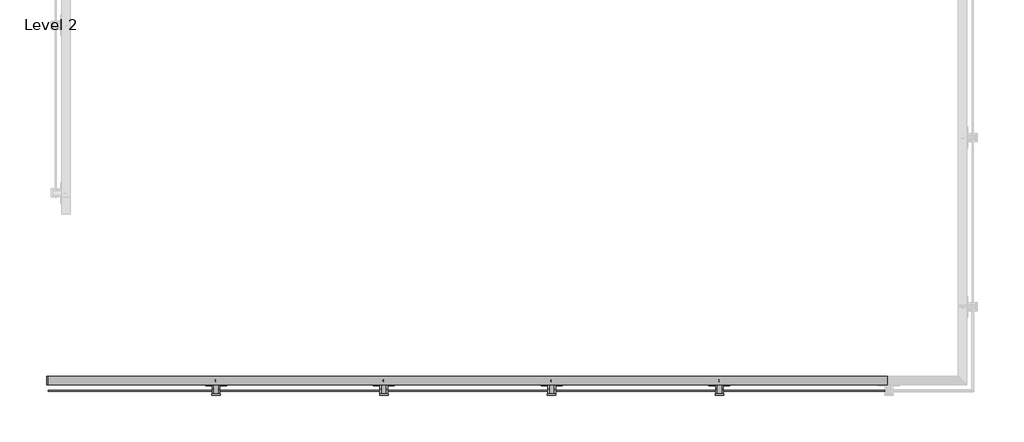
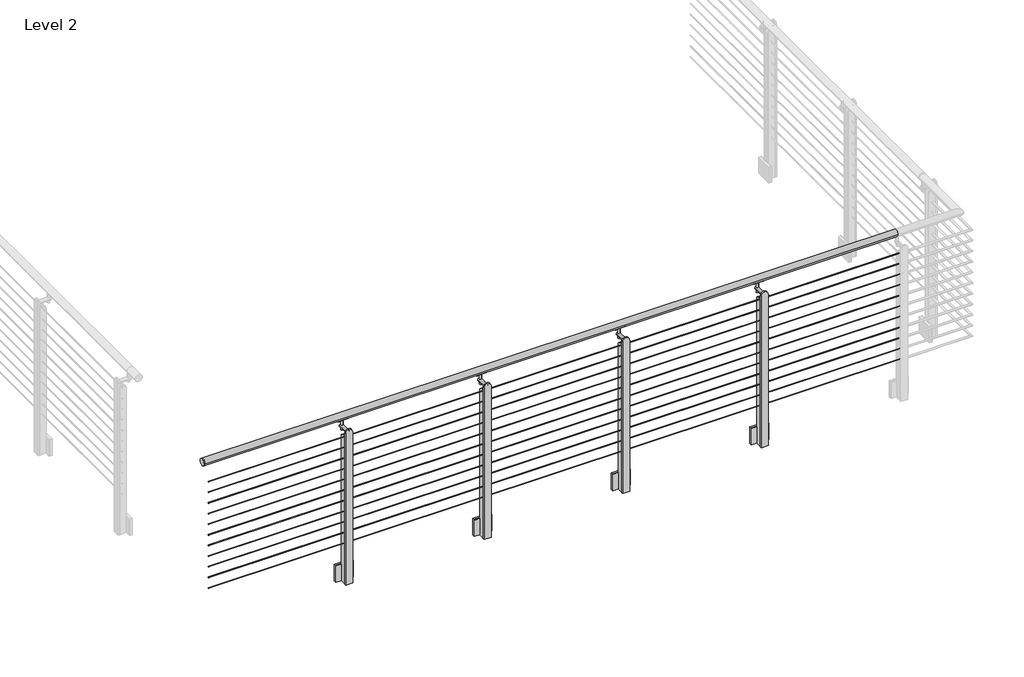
# One storey, part 2 of 12: 1 railing.
"""IFC4 building model written with IfcOpenShell, lengths in millimetres."""

from ifc_helpers import new_model, si_unit, point, frame, frame_2d, origin, place, context, project, spatial, polyline, circle_curve, trimmed, segment, composite_curve, outline, extrude, element, save
from ifc_brep_helpers import plane_surface, cylinder_surface, advanced_brep

model = new_model("IFC4")

# Units and contexts
model_context = context("Model", 3, world=origin())
ifc_project = project(units=[si_unit("LENGTHUNIT", "METRE", prefix="MILLI")], contexts=[model_context])

# Site, building, storey
site = spatial("IfcSite", under=ifc_project)
building = spatial("IfcBuilding", under=site)
storey = spatial("IfcBuildingStorey", under=building, Name="Level 2", Elevation=3048.0)

# Railing
placement = place(None, origin())
element("IfcRailing", 1, ObjectType="VIVA-TEE-Cable-Fascia Mount-Straight", at=placement, inside=storey, context=model_context, shape_type="SolidModel", body=[
    advanced_brep(
    [(-4181.705113, -52259.6826165, 4102.1), (-4181.705113, -52208.8826165, 4102.1), (-9261.705113, -52208.8826165, 4102.1), (-9261.705113, -52259.6826165, 4102.1), (-9271.4343064, -52259.6826165, 4102.1), (-9271.4343064, -52208.8826165, 4102.1)],
    [
        (0, 1, circle_curve(frame((-4181.705113, -52234.2826165, 4102.1), z_axis=(1.0, 0.0, 0.0), x_axis=(0.0, 1.0, 0.0)), 25.4)),
        (1, 0, circle_curve(frame((-4181.705113, -52234.2826165, 4102.1), z_axis=(1.0, 0.0, 0.0), x_axis=(0.0, 1.0, 0.0)), 25.4)),
        (2, 3, circle_curve(frame((-9261.705113, -52234.2826165, 4102.1), z_axis=(1.0, 0.0, 0.0), x_axis=(0.0, 1.0, 0.0)), 25.4)),
        (3, 0),
        (1, 2),
        (3, 2, circle_curve(frame((-9261.705113, -52234.2826165, 4102.1), z_axis=(1.0, 0.0, 0.0), x_axis=(0.0, 1.0, 0.0)), 25.4)),
        (4, 5, circle_curve(frame((-9271.4343064, -52234.2826165, 4102.1), z_axis=(-1.0, 0.0, 0.0), x_axis=(0.0, 1.0, 0.0)), 25.4)),
        (5, 4, circle_curve(frame((-9271.4343064, -52234.2826165, 4102.1), z_axis=(-1.0, 0.0, 0.0), x_axis=(0.0, 1.0, 0.0)), 25.4)),
        (4, 3),
        (2, 5),
    ],
    [
        plane_surface(frame((-4181.705113, -52234.2826165, 4127.5), z_axis=(1.0, 0.0, 0.0), x_axis=(0.0, 1.0, 0.0))),
        cylinder_surface(frame((-9261.705113, -52234.2826165, 4102.1), z_axis=(-1.0, 0.0, 0.0), x_axis=(0.0, 1.0, 0.0)), 25.4),
        plane_surface(frame((-9271.4343064, -52234.2826165, 4127.5), z_axis=(-1.0, 0.0, 0.0), x_axis=(0.0, 1.0, 0.0))),
        cylinder_surface(frame((-9271.4343064, -52234.2826165, 4102.1), z_axis=(-1.0, 0.0, 0.0), x_axis=(0.0, 1.0, 0.0)), 25.4),
    ],
    [
        (0, [[1, 2]]),
        (1, [[3, 4, -2, 5]]),
        (1, [[6, -5, -1, -4]]),
        (2, [[7, 8]]),
        (3, [[-7, 9, -3, 10]]),
        (3, [[-8, -10, -6, -9]]),
    ],
),
    extrude(outline(composite_curve([segment(trimmed(circle_curve(frame_2d((-52295.2426165, 3985.4124)), 2.3876), [point((-52292.8550165, 3985.4124))], [point((-52297.6302165, 3985.4124))], False, "CARTESIAN"), True, "CONTINUOUS"), segment(trimmed(circle_curve(frame_2d((-52295.2426165, 3985.4124)), 2.3876), [point((-52297.6302165, 3985.4124))], [point((-52292.8550165, 3985.4124))], False, "CARTESIAN"), True, "CONTINUOUS")], self_intersect=False)), frame((-9261.705113, 0.0, 0.0), z_axis=(1.0, 0.0, 0.0), x_axis=(0.0, 1.0, 0.0)), (0.0, 0.0, 1.0), 5080.0),
    extrude(outline(composite_curve([segment(trimmed(circle_curve(frame_2d((-52295.2426165, 3902.8624)), 2.3876), [point((-52292.8550165, 3902.8624))], [point((-52297.6302165, 3902.8624))], False, "CARTESIAN"), True, "CONTINUOUS"), segment(trimmed(circle_curve(frame_2d((-52295.2426165, 3902.8624)), 2.3876), [point((-52297.6302165, 3902.8624))], [point((-52292.8550165, 3902.8624))], False, "CARTESIAN"), True, "CONTINUOUS")], self_intersect=False)), frame((-9261.705113, 0.0, 0.0), z_axis=(1.0, 0.0, 0.0), x_axis=(0.0, 1.0, 0.0)), (0.0, 0.0, 1.0), 5080.0),
    extrude(outline(composite_curve([segment(trimmed(circle_curve(frame_2d((-52295.2426165, 3820.3124)), 2.3876), [point((-52292.8550165, 3820.3124))], [point((-52297.6302165, 3820.3124))], False, "CARTESIAN"), True, "CONTINUOUS"), segment(trimmed(circle_curve(frame_2d((-52295.2426165, 3820.3124)), 2.3876), [point((-52297.6302165, 3820.3124))], [point((-52292.8550165, 3820.3124))], False, "CARTESIAN"), True, "CONTINUOUS")], self_intersect=False)), frame((-9261.705113, 0.0, 0.0), z_axis=(1.0, 0.0, 0.0), x_axis=(0.0, 1.0, 0.0)), (0.0, 0.0, 1.0), 5080.0),
    extrude(outline(composite_curve([segment(trimmed(circle_curve(frame_2d((-52295.2426165, 3737.7624)), 2.3876), [point((-52292.8550165, 3737.7624))], [point((-52297.6302165, 3737.7624))], False, "CARTESIAN"), True, "CONTINUOUS"), segment(trimmed(circle_curve(frame_2d((-52295.2426165, 3737.7624)), 2.3876), [point((-52297.6302165, 3737.7624))], [point((-52292.8550165, 3737.7624))], False, "CARTESIAN"), True, "CONTINUOUS")], self_intersect=False)), frame((-9261.705113, 0.0, 0.0), z_axis=(1.0, 0.0, 0.0), x_axis=(0.0, 1.0, 0.0)), (0.0, 0.0, 1.0), 5080.0),
    extrude(outline(composite_curve([segment(trimmed(circle_curve(frame_2d((-52295.2426165, 3655.2124)), 2.3876), [point((-52292.8550165, 3655.2124))], [point((-52297.6302165, 3655.2124))], False, "CARTESIAN"), True, "CONTINUOUS"), segment(trimmed(circle_curve(frame_2d((-52295.2426165, 3655.2124)), 2.3876), [point((-52297.6302165, 3655.2124))], [point((-52292.8550165, 3655.2124))], False, "CARTESIAN"), True, "CONTINUOUS")], self_intersect=False)), frame((-9261.705113, 0.0, 0.0), z_axis=(1.0, 0.0, 0.0), x_axis=(0.0, 1.0, 0.0)), (0.0, 0.0, 1.0), 5080.0),
    extrude(outline(composite_curve([segment(trimmed(circle_curve(frame_2d((-52295.2426165, 3572.6624)), 2.3876), [point((-52292.8550165, 3572.6624))], [point((-52297.6302165, 3572.6624))], False, "CARTESIAN"), True, "CONTINUOUS"), segment(trimmed(circle_curve(frame_2d((-52295.2426165, 3572.6624)), 2.3876), [point((-52297.6302165, 3572.6624))], [point((-52292.8550165, 3572.6624))], False, "CARTESIAN"), True, "CONTINUOUS")], self_intersect=False)), frame((-9261.705113, 0.0, 0.0), z_axis=(1.0, 0.0, 0.0), x_axis=(0.0, 1.0, 0.0)), (0.0, 0.0, 1.0), 5080.0),
    extrude(outline(composite_curve([segment(trimmed(circle_curve(frame_2d((-52295.2426165, 3490.1124)), 2.3876), [point((-52292.8550165, 3490.1124))], [point((-52297.6302165, 3490.1124))], False, "CARTESIAN"), True, "CONTINUOUS"), segment(trimmed(circle_curve(frame_2d((-52295.2426165, 3490.1124)), 2.3876), [point((-52297.6302165, 3490.1124))], [point((-52292.8550165, 3490.1124))], False, "CARTESIAN"), True, "CONTINUOUS")], self_intersect=False)), frame((-9261.705113, 0.0, 0.0), z_axis=(1.0, 0.0, 0.0), x_axis=(0.0, 1.0, 0.0)), (0.0, 0.0, 1.0), 5080.0),
    extrude(outline(composite_curve([segment(trimmed(circle_curve(frame_2d((-52295.2426165, 3407.5624)), 2.3876), [point((-52292.8550165, 3407.5624))], [point((-52297.6302165, 3407.5624))], False, "CARTESIAN"), True, "CONTINUOUS"), segment(trimmed(circle_curve(frame_2d((-52295.2426165, 3407.5624)), 2.3876), [point((-52297.6302165, 3407.5624))], [point((-52292.8550165, 3407.5624))], False, "CARTESIAN"), True, "CONTINUOUS")], self_intersect=False)), frame((-9261.705113, 0.0, 0.0), z_axis=(1.0, 0.0, 0.0), x_axis=(0.0, 1.0, 0.0)), (0.0, 0.0, 1.0), 5080.0),
    extrude(outline(composite_curve([segment(trimmed(circle_curve(frame_2d((-52295.2426165, 3325.0124)), 2.3876), [point((-52292.8550165, 3325.0124))], [point((-52297.6302165, 3325.0124))], False, "CARTESIAN"), True, "CONTINUOUS"), segment(trimmed(circle_curve(frame_2d((-52295.2426165, 3325.0124)), 2.3876), [point((-52297.6302165, 3325.0124))], [point((-52292.8550165, 3325.0124))], False, "CARTESIAN"), True, "CONTINUOUS")], self_intersect=False)), frame((-9261.705113, 0.0, 0.0), z_axis=(1.0, 0.0, 0.0), x_axis=(0.0, 1.0, 0.0)), (0.0, 0.0, 1.0), 5080.0),
    extrude(outline(composite_curve([segment(trimmed(circle_curve(frame_2d((-52295.2426165, 3242.4624)), 2.3876), [point((-52292.8550165, 3242.4624))], [point((-52297.6302165, 3242.4624))], False, "CARTESIAN"), True, "CONTINUOUS"), segment(trimmed(circle_curve(frame_2d((-52295.2426165, 3242.4624)), 2.3876), [point((-52297.6302165, 3242.4624))], [point((-52292.8550165, 3242.4624))], False, "CARTESIAN"), True, "CONTINUOUS")], self_intersect=False)), frame((-9261.705113, 0.0, 0.0), z_axis=(1.0, 0.0, 0.0), x_axis=(0.0, 1.0, 0.0)), (0.0, 0.0, 1.0), 5080.0),
    extrude(outline(composite_curve([segment(trimmed(circle_curve(frame_2d((-52295.2426165, 3159.9124)), 2.3876), [point((-52292.8550165, 3159.9124))], [point((-52297.6302165, 3159.9124))], False, "CARTESIAN"), True, "CONTINUOUS"), segment(trimmed(circle_curve(frame_2d((-52295.2426165, 3159.9124)), 2.3876), [point((-52297.6302165, 3159.9124))], [point((-52292.8550165, 3159.9124))], False, "CARTESIAN"), True, "CONTINUOUS")], self_intersect=False)), frame((-9261.705113, 0.0, 0.0), z_axis=(1.0, 0.0, 0.0), x_axis=(0.0, 1.0, 0.0)), (0.0, 0.0, 1.0), 5080.0),
    extrude(outline(composite_curve([segment(trimmed(circle_curve(frame_2d((0.0, 7.0)), 7.0), [point((0.0, 14.0))], [point((0.0, 0.0))], False, "CARTESIAN"), True, "CONTINUOUS"), segment(trimmed(circle_curve(frame_2d((0.0, 7.0)), 7.0), [point((0.0, 0.0))], [point((0.0, 14.0))], False, "CARTESIAN"), True, "CONTINUOUS")], self_intersect=False)), frame((-5197.6314031, -52241.6274703, 3997.1832524), z_axis=(0.004253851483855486, 0.0, 0.9999909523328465), x_axis=(0.9999909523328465, 0.0, -0.004253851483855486)), (0.0, 0.0, 1.0), 75.97),
    extrude(outline(composite_curve([segment(trimmed(circle_curve(frame_2d((-52234.4860663, 4095.2025651)), 19.05), [point((-52248.0156545, 4081.7916463))], [point((-52220.9564781, 4081.7916463))], True, "CARTESIAN"), True, "CONTINUOUS"), segment(polyline([(-52220.9564781, 4081.7916463), (-52219.9300885, 4080.7742593)]), True, "CONTINUOUS"), segment(trimmed(circle_curve(frame_2d((-52220.9860663, 4079.7089374)), 1.5), [point((-52219.9300885, 4080.7742593))], [point((-52220.0006648, 4078.5780156))], False, "CARTESIAN"), True, "CONTINUOUS"), segment(trimmed(circle_curve(frame_2d((-52234.4860663, 4095.2025651)), 22.05), [point((-52220.0006648, 4078.5780156))], [point((-52248.9714678, 4078.5780156))], False, "CARTESIAN"), True, "CONTINUOUS"), segment(trimmed(circle_curve(frame_2d((-52247.9860663, 4079.7089374)), 1.5), [point((-52248.9714678, 4078.5780156))], [point((-52249.0420442, 4080.7742593))], False, "CARTESIAN"), True, "CONTINUOUS"), segment(polyline([(-52249.0420442, 4080.7742593), (-52248.0156545, 4081.7916463)]), True, "CONTINUOUS")], self_intersect=False)), frame((-5233.1698772, 0.0, 0.0), z_axis=(1.0, 0.0, 0.0), x_axis=(0.0, 1.0, 0.0)), (0.0, 0.0, 1.0), 74.5229187),
    extrude(outline(composite_curve([segment(trimmed(circle_curve(frame_2d((4024.1259188, -5197.4270726)), 12.5), [point((4024.1259188, -5209.9270726))], [point((4024.1259188, -5184.9270726))], False, "CARTESIAN"), True, "CONTINUOUS"), segment(trimmed(circle_curve(frame_2d((4024.1259188, -5197.4270726)), 12.5), [point((4024.1259188, -5184.9270726))], [point((4024.1259188, -5209.9270726))], False, "CARTESIAN"), True, "CONTINUOUS")], self_intersect=False)), frame((0.0, -52314.3934563, 0.0), z_axis=(0.0, 1.0, 0.0), x_axis=(0.0, 0.0, 1.0)), (0.0, 0.0, 1.0), 92.423),
    extrude(outline(polyline([(-5133.808238, -52244.4426165), (-5133.808238, -52257.3250681), (-5260.808238, -52257.3250681), (-5260.808238, -52244.4426165), (-5133.808238, -52244.4426165)])), frame((0.0, 0.0, 2851.15), z_axis=(0.0, 0.0, 1.0), x_axis=(1.0, 0.0, 0.0)), (0.0, 0.0, 1.0), 127.0),
    extrude(outline(composite_curve([segment(trimmed(circle_curve(frame_2d((-52288.227165, 3972.2425)), 24.765), [point((-52288.227165, 3997.0075))], [point((-52263.462165, 3972.2425))], False, "CARTESIAN"), True, "CONTINUOUS"), segment(polyline([(-52263.462165, 3972.2425), (-52263.462165, 2851.15), (-52314.2926165, 2851.15), (-52314.2926165, 3997.0075), (-52288.227165, 3997.0075)]), True, "CONTINUOUS")], self_intersect=False)), frame((-5183.3047384, 0.0, 0.0), z_axis=(1.0, 0.0, 0.0), x_axis=(0.0, 1.0, 0.0)), (0.0, 0.0, 1.0), 9.525),
    extrude(outline(polyline([(-5192.545738, -52257.3250681), (-5133.808238, -52257.3250681), (-5133.808238, -52265.2625681), (-5184.608238, -52265.2625681), (-5184.608238, -52314.2926165), (-5192.545738, -52314.2926165), (-5192.545738, -52257.3250681)])), frame((0.0, 0.0, 2851.15), z_axis=(0.0, 0.0, 1.0), x_axis=(1.0, 0.0, 0.0)), (0.0, 0.0, 1.0), 127.0),
    extrude(outline(polyline([(-5202.070738, -52257.3250681), (-5202.070738, -52314.2926165), (-5210.008238, -52314.2926165), (-5210.008238, -52265.2625681), (-5260.808238, -52265.2625681), (-5260.808238, -52257.3250681), (-5202.070738, -52257.3250681)])), frame((0.0, 0.0, 2851.15), z_axis=(0.0, 0.0, 1.0), x_axis=(1.0, 0.0, 0.0)), (0.0, 0.0, 1.0), 127.0),
    extrude(outline(composite_curve([segment(polyline([(2851.15, -5171.908238), (4027.17, -5171.908238)]), True, "CONTINUOUS"), segment(trimmed(circle_curve(frame_2d((4027.17, -5197.308238)), 25.4), [point((4027.17, -5171.908238))], [point((4027.17, -5222.708238))], False, "CARTESIAN"), True, "CONTINUOUS"), segment(polyline([(4027.17, -5222.708238), (2851.15, -5222.708238), (2851.15, -5171.908238)]), True, "CONTINUOUS")], self_intersect=False)), frame((0.0, -52323.8176165, 0.0), z_axis=(0.0, 1.0, 0.0), x_axis=(0.0, 0.0, 1.0)), (0.0, 0.0, 1.0), 9.525),
    extrude(outline(composite_curve([segment(trimmed(circle_curve(frame_2d((-52288.227165, 3972.2425)), 24.765), [point((-52288.227165, 3997.0075))], [point((-52263.462165, 3972.2425))], False, "CARTESIAN"), True, "CONTINUOUS"), segment(polyline([(-52263.462165, 3972.2425), (-52263.462165, 2851.15), (-52314.2926165, 2851.15), (-52314.2926165, 3997.0075), (-52288.227165, 3997.0075)]), True, "CONTINUOUS")], self_intersect=False)), frame((-5220.8367375, 0.0, 0.0), z_axis=(1.0, 0.0, 0.0), x_axis=(0.0, 1.0, 0.0)), (0.0, 0.0, 1.0), 9.525),
    extrude(outline(composite_curve([segment(trimmed(circle_curve(frame_2d((0.0, 7.0)), 7.0), [point((0.0, 14.0))], [point((0.0, 0.0))], False, "CARTESIAN"), True, "CONTINUOUS"), segment(trimmed(circle_curve(frame_2d((0.0, 7.0)), 7.0), [point((0.0, 0.0))], [point((0.0, 14.0))], False, "CARTESIAN"), True, "CONTINUOUS")], self_intersect=False)), frame((-6213.6314031, -52241.6274703, 3997.1832524), z_axis=(0.004253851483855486, 0.0, 0.9999909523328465), x_axis=(0.9999909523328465, 0.0, -0.004253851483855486)), (0.0, 0.0, 1.0), 75.97),
    extrude(outline(composite_curve([segment(trimmed(circle_curve(frame_2d((-52234.4860663, 4095.2025651)), 19.05), [point((-52248.0156545, 4081.7916463))], [point((-52220.9564781, 4081.7916463))], True, "CARTESIAN"), True, "CONTINUOUS"), segment(polyline([(-52220.9564781, 4081.7916463), (-52219.9300885, 4080.7742593)]), True, "CONTINUOUS"), segment(trimmed(circle_curve(frame_2d((-52220.9860663, 4079.7089374)), 1.5), [point((-52219.9300885, 4080.7742593))], [point((-52220.0006648, 4078.5780156))], False, "CARTESIAN"), True, "CONTINUOUS"), segment(trimmed(circle_curve(frame_2d((-52234.4860663, 4095.2025651)), 22.05), [point((-52220.0006648, 4078.5780156))], [point((-52248.9714678, 4078.5780156))], False, "CARTESIAN"), True, "CONTINUOUS"), segment(trimmed(circle_curve(frame_2d((-52247.9860663, 4079.7089374)), 1.5), [point((-52248.9714678, 4078.5780156))], [point((-52249.0420442, 4080.7742593))], False, "CARTESIAN"), True, "CONTINUOUS"), segment(polyline([(-52249.0420442, 4080.7742593), (-52248.0156545, 4081.7916463)]), True, "CONTINUOUS")], self_intersect=False)), frame((-6249.1698772, 0.0, 0.0), z_axis=(1.0, 0.0, 0.0), x_axis=(0.0, 1.0, 0.0)), (0.0, 0.0, 1.0), 74.5229187),
    extrude(outline(composite_curve([segment(trimmed(circle_curve(frame_2d((4024.1259188, -6213.4270726)), 12.5), [point((4024.1259188, -6225.9270726))], [point((4024.1259188, -6200.9270726))], False, "CARTESIAN"), True, "CONTINUOUS"), segment(trimmed(circle_curve(frame_2d((4024.1259188, -6213.4270726)), 12.5), [point((4024.1259188, -6200.9270726))], [point((4024.1259188, -6225.9270726))], False, "CARTESIAN"), True, "CONTINUOUS")], self_intersect=False)), frame((0.0, -52314.3934563, 0.0), z_axis=(0.0, 1.0, 0.0), x_axis=(0.0, 0.0, 1.0)), (0.0, 0.0, 1.0), 92.423),
    extrude(outline(polyline([(-6149.808238, -52244.4426165), (-6149.808238, -52257.3250681), (-6276.808238, -52257.3250681), (-6276.808238, -52244.4426165), (-6149.808238, -52244.4426165)])), frame((0.0, 0.0, 2851.15), z_axis=(0.0, 0.0, 1.0), x_axis=(1.0, 0.0, 0.0)), (0.0, 0.0, 1.0), 127.0),
    extrude(outline(composite_curve([segment(trimmed(circle_curve(frame_2d((-52288.227165, 3972.2425)), 24.765), [point((-52288.227165, 3997.0075))], [point((-52263.462165, 3972.2425))], False, "CARTESIAN"), True, "CONTINUOUS"), segment(polyline([(-52263.462165, 3972.2425), (-52263.462165, 2851.15), (-52314.2926165, 2851.15), (-52314.2926165, 3997.0075), (-52288.227165, 3997.0075)]), True, "CONTINUOUS")], self_intersect=False)), frame((-6199.3047384, 0.0, 0.0), z_axis=(1.0, 0.0, 0.0), x_axis=(0.0, 1.0, 0.0)), (0.0, 0.0, 1.0), 9.525),
    extrude(outline(polyline([(-6208.545738, -52257.3250681), (-6149.808238, -52257.3250681), (-6149.808238, -52265.2625681), (-6200.608238, -52265.2625681), (-6200.608238, -52314.2926165), (-6208.545738, -52314.2926165), (-6208.545738, -52257.3250681)])), frame((0.0, 0.0, 2851.15), z_axis=(0.0, 0.0, 1.0), x_axis=(1.0, 0.0, 0.0)), (0.0, 0.0, 1.0), 127.0),
    extrude(outline(polyline([(-6218.070738, -52257.3250681), (-6218.070738, -52314.2926165), (-6226.008238, -52314.2926165), (-6226.008238, -52265.2625681), (-6276.808238, -52265.2625681), (-6276.808238, -52257.3250681), (-6218.070738, -52257.3250681)])), frame((0.0, 0.0, 2851.15), z_axis=(0.0, 0.0, 1.0), x_axis=(1.0, 0.0, 0.0)), (0.0, 0.0, 1.0), 127.0),
    extrude(outline(composite_curve([segment(polyline([(2851.15, -6187.908238), (4027.17, -6187.908238)]), True, "CONTINUOUS"), segment(trimmed(circle_curve(frame_2d((4027.17, -6213.308238)), 25.4), [point((4027.17, -6187.908238))], [point((4027.17, -6238.708238))], False, "CARTESIAN"), True, "CONTINUOUS"), segment(polyline([(4027.17, -6238.708238), (2851.15, -6238.708238), (2851.15, -6187.908238)]), True, "CONTINUOUS")], self_intersect=False)), frame((0.0, -52323.8176165, 0.0), z_axis=(0.0, 1.0, 0.0), x_axis=(0.0, 0.0, 1.0)), (0.0, 0.0, 1.0), 9.525),
    extrude(outline(composite_curve([segment(trimmed(circle_curve(frame_2d((-52288.227165, 3972.2425)), 24.765), [point((-52288.227165, 3997.0075))], [point((-52263.462165, 3972.2425))], False, "CARTESIAN"), True, "CONTINUOUS"), segment(polyline([(-52263.462165, 3972.2425), (-52263.462165, 2851.15), (-52314.2926165, 2851.15), (-52314.2926165, 3997.0075), (-52288.227165, 3997.0075)]), True, "CONTINUOUS")], self_intersect=False)), frame((-6236.8367375, 0.0, 0.0), z_axis=(1.0, 0.0, 0.0), x_axis=(0.0, 1.0, 0.0)), (0.0, 0.0, 1.0), 9.525),
    extrude(outline(composite_curve([segment(trimmed(circle_curve(frame_2d((0.0, 7.0)), 7.0), [point((0.0, 14.0))], [point((0.0, 0.0))], False, "CARTESIAN"), True, "CONTINUOUS"), segment(trimmed(circle_curve(frame_2d((0.0, 7.0)), 7.0), [point((0.0, 0.0))], [point((0.0, 14.0))], False, "CARTESIAN"), True, "CONTINUOUS")], self_intersect=False)), frame((-7229.6314031, -52241.6274703, 3997.1832524), z_axis=(0.004253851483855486, 0.0, 0.9999909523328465), x_axis=(0.9999909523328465, 0.0, -0.004253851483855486)), (0.0, 0.0, 1.0), 75.97),
    extrude(outline(composite_curve([segment(trimmed(circle_curve(frame_2d((-52234.4860663, 4095.2025651)), 19.05), [point((-52248.0156545, 4081.7916463))], [point((-52220.9564781, 4081.7916463))], True, "CARTESIAN"), True, "CONTINUOUS"), segment(polyline([(-52220.9564781, 4081.7916463), (-52219.9300885, 4080.7742593)]), True, "CONTINUOUS"), segment(trimmed(circle_curve(frame_2d((-52220.9860663, 4079.7089374)), 1.5), [point((-52219.9300885, 4080.7742593))], [point((-52220.0006648, 4078.5780156))], False, "CARTESIAN"), True, "CONTINUOUS"), segment(trimmed(circle_curve(frame_2d((-52234.4860663, 4095.2025651)), 22.05), [point((-52220.0006648, 4078.5780156))], [point((-52248.9714678, 4078.5780156))], False, "CARTESIAN"), True, "CONTINUOUS"), segment(trimmed(circle_curve(frame_2d((-52247.9860663, 4079.7089374)), 1.5), [point((-52248.9714678, 4078.5780156))], [point((-52249.0420442, 4080.7742593))], False, "CARTESIAN"), True, "CONTINUOUS"), segment(polyline([(-52249.0420442, 4080.7742593), (-52248.0156545, 4081.7916463)]), True, "CONTINUOUS")], self_intersect=False)), frame((-7265.1698772, 0.0, 0.0), z_axis=(1.0, 0.0, 0.0), x_axis=(0.0, 1.0, 0.0)), (0.0, 0.0, 1.0), 74.5229187),
    extrude(outline(composite_curve([segment(trimmed(circle_curve(frame_2d((4024.1259188, -7229.4270726)), 12.5), [point((4024.1259188, -7241.9270726))], [point((4024.1259188, -7216.9270726))], False, "CARTESIAN"), True, "CONTINUOUS"), segment(trimmed(circle_curve(frame_2d((4024.1259188, -7229.4270726)), 12.5), [point((4024.1259188, -7216.9270726))], [point((4024.1259188, -7241.9270726))], False, "CARTESIAN"), True, "CONTINUOUS")], self_intersect=False)), frame((0.0, -52314.3934563, 0.0), z_axis=(0.0, 1.0, 0.0), x_axis=(0.0, 0.0, 1.0)), (0.0, 0.0, 1.0), 92.423),
    extrude(outline(polyline([(-7165.808238, -52244.4426165), (-7165.808238, -52257.3250681), (-7292.808238, -52257.3250681), (-7292.808238, -52244.4426165), (-7165.808238, -52244.4426165)])), frame((0.0, 0.0, 2851.15), z_axis=(0.0, 0.0, 1.0), x_axis=(1.0, 0.0, 0.0)), (0.0, 0.0, 1.0), 127.0),
    extrude(outline(composite_curve([segment(trimmed(circle_curve(frame_2d((-52288.227165, 3972.2425)), 24.765), [point((-52288.227165, 3997.0075))], [point((-52263.462165, 3972.2425))], False, "CARTESIAN"), True, "CONTINUOUS"), segment(polyline([(-52263.462165, 3972.2425), (-52263.462165, 2851.15), (-52314.2926165, 2851.15), (-52314.2926165, 3997.0075), (-52288.227165, 3997.0075)]), True, "CONTINUOUS")], self_intersect=False)), frame((-7215.3047384, 0.0, 0.0), z_axis=(1.0, 0.0, 0.0), x_axis=(0.0, 1.0, 0.0)), (0.0, 0.0, 1.0), 9.525),
    extrude(outline(polyline([(-7224.545738, -52257.3250681), (-7165.808238, -52257.3250681), (-7165.808238, -52265.2625681), (-7216.608238, -52265.2625681), (-7216.608238, -52314.2926165), (-7224.545738, -52314.2926165), (-7224.545738, -52257.3250681)])), frame((0.0, 0.0, 2851.15), z_axis=(0.0, 0.0, 1.0), x_axis=(1.0, 0.0, 0.0)), (0.0, 0.0, 1.0), 127.0),
    extrude(outline(polyline([(-7234.070738, -52257.3250681), (-7234.070738, -52314.2926165), (-7242.008238, -52314.2926165), (-7242.008238, -52265.2625681), (-7292.808238, -52265.2625681), (-7292.808238, -52257.3250681), (-7234.070738, -52257.3250681)])), frame((0.0, 0.0, 2851.15), z_axis=(0.0, 0.0, 1.0), x_axis=(1.0, 0.0, 0.0)), (0.0, 0.0, 1.0), 127.0),
    extrude(outline(composite_curve([segment(polyline([(2851.15, -7203.908238), (4027.17, -7203.908238)]), True, "CONTINUOUS"), segment(trimmed(circle_curve(frame_2d((4027.17, -7229.308238)), 25.4), [point((4027.17, -7203.908238))], [point((4027.17, -7254.708238))], False, "CARTESIAN"), True, "CONTINUOUS"), segment(polyline([(4027.17, -7254.708238), (2851.15, -7254.708238), (2851.15, -7203.908238)]), True, "CONTINUOUS")], self_intersect=False)), frame((0.0, -52323.8176165, 0.0), z_axis=(0.0, 1.0, 0.0), x_axis=(0.0, 0.0, 1.0)), (0.0, 0.0, 1.0), 9.525),
    extrude(outline(composite_curve([segment(trimmed(circle_curve(frame_2d((-52288.227165, 3972.2425)), 24.765), [point((-52288.227165, 3997.0075))], [point((-52263.462165, 3972.2425))], False, "CARTESIAN"), True, "CONTINUOUS"), segment(polyline([(-52263.462165, 3972.2425), (-52263.462165, 2851.15), (-52314.2926165, 2851.15), (-52314.2926165, 3997.0075), (-52288.227165, 3997.0075)]), True, "CONTINUOUS")], self_intersect=False)), frame((-7252.8367375, 0.0, 0.0), z_axis=(1.0, 0.0, 0.0), x_axis=(0.0, 1.0, 0.0)), (0.0, 0.0, 1.0), 9.525),
    extrude(outline(composite_curve([segment(trimmed(circle_curve(frame_2d((0.0, 7.0)), 7.0), [point((0.0, 14.0))], [point((0.0, 0.0))], False, "CARTESIAN"), True, "CONTINUOUS"), segment(trimmed(circle_curve(frame_2d((0.0, 7.0)), 7.0), [point((0.0, 0.0))], [point((0.0, 14.0))], False, "CARTESIAN"), True, "CONTINUOUS")], self_intersect=False)), frame((-8245.6314031, -52241.6274703, 3997.1832524), z_axis=(0.004253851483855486, 0.0, 0.9999909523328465), x_axis=(0.9999909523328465, 0.0, -0.004253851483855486)), (0.0, 0.0, 1.0), 75.97),
    extrude(outline(composite_curve([segment(trimmed(circle_curve(frame_2d((-52234.4860663, 4095.2025651)), 19.05), [point((-52248.0156545, 4081.7916463))], [point((-52220.9564781, 4081.7916463))], True, "CARTESIAN"), True, "CONTINUOUS"), segment(polyline([(-52220.9564781, 4081.7916463), (-52219.9300885, 4080.7742593)]), True, "CONTINUOUS"), segment(trimmed(circle_curve(frame_2d((-52220.9860663, 4079.7089374)), 1.5), [point((-52219.9300885, 4080.7742593))], [point((-52220.0006648, 4078.5780156))], False, "CARTESIAN"), True, "CONTINUOUS"), segment(trimmed(circle_curve(frame_2d((-52234.4860663, 4095.2025651)), 22.05), [point((-52220.0006648, 4078.5780156))], [point((-52248.9714678, 4078.5780156))], False, "CARTESIAN"), True, "CONTINUOUS"), segment(trimmed(circle_curve(frame_2d((-52247.9860663, 4079.7089374)), 1.5), [point((-52248.9714678, 4078.5780156))], [point((-52249.0420442, 4080.7742593))], False, "CARTESIAN"), True, "CONTINUOUS"), segment(polyline([(-52249.0420442, 4080.7742593), (-52248.0156545, 4081.7916463)]), True, "CONTINUOUS")], self_intersect=False)), frame((-8281.1698772, 0.0, 0.0), z_axis=(1.0, 0.0, 0.0), x_axis=(0.0, 1.0, 0.0)), (0.0, 0.0, 1.0), 74.5229187),
    extrude(outline(composite_curve([segment(trimmed(circle_curve(frame_2d((4024.1259188, -8245.4270726)), 12.5), [point((4024.1259188, -8257.9270726))], [point((4024.1259188, -8232.9270726))], False, "CARTESIAN"), True, "CONTINUOUS"), segment(trimmed(circle_curve(frame_2d((4024.1259188, -8245.4270726)), 12.5), [point((4024.1259188, -8232.9270726))], [point((4024.1259188, -8257.9270726))], False, "CARTESIAN"), True, "CONTINUOUS")], self_intersect=False)), frame((0.0, -52314.3934563, 0.0), z_axis=(0.0, 1.0, 0.0), x_axis=(0.0, 0.0, 1.0)), (0.0, 0.0, 1.0), 92.423),
    extrude(outline(polyline([(-8181.808238, -52244.4426165), (-8181.808238, -52257.3250681), (-8308.808238, -52257.3250681), (-8308.808238, -52244.4426165), (-8181.808238, -52244.4426165)])), frame((0.0, 0.0, 2851.15), z_axis=(0.0, 0.0, 1.0), x_axis=(1.0, 0.0, 0.0)), (0.0, 0.0, 1.0), 127.0),
    extrude(outline(composite_curve([segment(trimmed(circle_curve(frame_2d((-52288.227165, 3972.2425)), 24.765), [point((-52288.227165, 3997.0075))], [point((-52263.462165, 3972.2425))], False, "CARTESIAN"), True, "CONTINUOUS"), segment(polyline([(-52263.462165, 3972.2425), (-52263.462165, 2851.15), (-52314.2926165, 2851.15), (-52314.2926165, 3997.0075), (-52288.227165, 3997.0075)]), True, "CONTINUOUS")], self_intersect=False)), frame((-8231.3047384, 0.0, 0.0), z_axis=(1.0, 0.0, 0.0), x_axis=(0.0, 1.0, 0.0)), (0.0, 0.0, 1.0), 9.525),
    extrude(outline(polyline([(-8240.545738, -52257.3250681), (-8181.808238, -52257.3250681), (-8181.808238, -52265.2625681), (-8232.608238, -52265.2625681), (-8232.608238, -52314.2926165), (-8240.545738, -52314.2926165), (-8240.545738, -52257.3250681)])), frame((0.0, 0.0, 2851.15), z_axis=(0.0, 0.0, 1.0), x_axis=(1.0, 0.0, 0.0)), (0.0, 0.0, 1.0), 127.0),
    extrude(outline(polyline([(-8250.070738, -52257.3250681), (-8250.070738, -52314.2926165), (-8258.008238, -52314.2926165), (-8258.008238, -52265.2625681), (-8308.808238, -52265.2625681), (-8308.808238, -52257.3250681), (-8250.070738, -52257.3250681)])), frame((0.0, 0.0, 2851.15), z_axis=(0.0, 0.0, 1.0), x_axis=(1.0, 0.0, 0.0)), (0.0, 0.0, 1.0), 127.0),
    extrude(outline(composite_curve([segment(polyline([(2851.15, -8219.908238), (4027.17, -8219.908238)]), True, "CONTINUOUS"), segment(trimmed(circle_curve(frame_2d((4027.17, -8245.308238)), 25.4), [point((4027.17, -8219.908238))], [point((4027.17, -8270.708238))], False, "CARTESIAN"), True, "CONTINUOUS"), segment(polyline([(4027.17, -8270.708238), (2851.15, -8270.708238), (2851.15, -8219.908238)]), True, "CONTINUOUS")], self_intersect=False)), frame((0.0, -52323.8176165, 0.0), z_axis=(0.0, 1.0, 0.0), x_axis=(0.0, 0.0, 1.0)), (0.0, 0.0, 1.0), 9.525),
    extrude(outline(composite_curve([segment(trimmed(circle_curve(frame_2d((-52288.227165, 3972.2425)), 24.765), [point((-52288.227165, 3997.0075))], [point((-52263.462165, 3972.2425))], False, "CARTESIAN"), True, "CONTINUOUS"), segment(polyline([(-52263.462165, 3972.2425), (-52263.462165, 2851.15), (-52314.2926165, 2851.15), (-52314.2926165, 3997.0075), (-52288.227165, 3997.0075)]), True, "CONTINUOUS")], self_intersect=False)), frame((-8268.8367375, 0.0, 0.0), z_axis=(1.0, 0.0, 0.0), x_axis=(0.0, 1.0, 0.0)), (0.0, 0.0, 1.0), 9.525),
])

save(model, "model.ifc")
